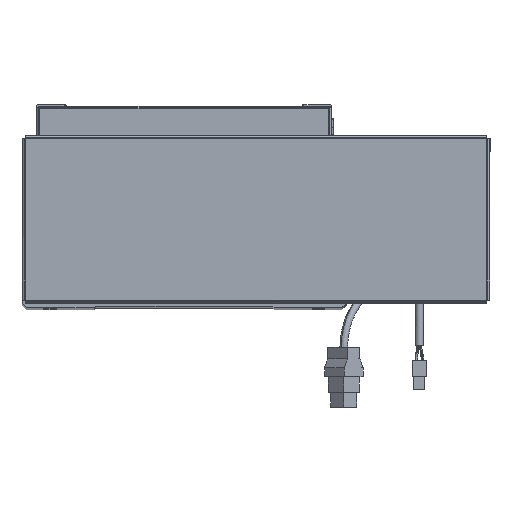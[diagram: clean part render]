
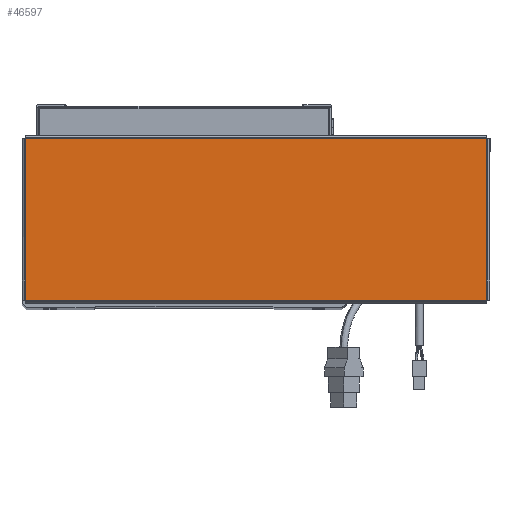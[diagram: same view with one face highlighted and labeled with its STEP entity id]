
A CAD part, top view. The second image highlights one B-rep face of the part: STEP entity #46597.
In plain terms, the highlighted planar face has unit normal (0, 0, 1).
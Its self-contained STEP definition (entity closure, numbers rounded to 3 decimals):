
#1700 = CARTESIAN_POINT ( 'NONE',  ( -156.513, 54.793, 0. ) ) ;
#2698 = CARTESIAN_POINT ( 'NONE',  ( 0., 0., 0. ) ) ;
#4778 = LINE ( 'NONE', #51108, #7146 ) ;
#5701 = LINE ( 'NONE', #24946, #30196 ) ;
#7146 = VECTOR ( 'NONE', #15800, 1000. ) ;
#7666 = VERTEX_POINT ( 'NONE', #33476 ) ;
#8119 = EDGE_CURVE ( 'NONE', #21321, #44547, #48171, .T. ) ;
#10843 = VERTEX_POINT ( 'NONE', #24805 ) ;
#11105 = FACE_OUTER_BOUND ( 'NONE', #17770, .T. ) ;
#15269 = EDGE_CURVE ( 'NONE', #7666, #21321, #5701, .T. ) ;
#15800 = DIRECTION ( 'NONE',  ( 1., 0., 0. ) ) ;
#17770 = EDGE_LOOP ( 'NONE', ( #44904, #53473, #21652, #56318 ) ) ;
#20273 = DIRECTION ( 'NONE',  ( -1., 0., 0. ) ) ;
#21057 = VECTOR ( 'NONE', #29913, 1000. ) ;
#21321 = VERTEX_POINT ( 'NONE', #27334 ) ;
#21652 = ORIENTED_EDGE ( 'NONE', *, *, #15269, .T. ) ;
#24805 = CARTESIAN_POINT ( 'NONE',  ( 156.513, -54.763, 0. ) ) ;
#24946 = CARTESIAN_POINT ( 'NONE',  ( 156.543, 54.763, 0. ) ) ;
#27334 = CARTESIAN_POINT ( 'NONE',  ( -156.513, 54.763, 0. ) ) ;
#27411 = LINE ( 'NONE', #65360, #21057 ) ;
#29913 = DIRECTION ( 'NONE',  ( 0., 1., 0. ) ) ;
#30196 = VECTOR ( 'NONE', #20273, 1000. ) ;
#33476 = CARTESIAN_POINT ( 'NONE',  ( 156.513, 54.763, 0. ) ) ;
#36604 = AXIS2_PLACEMENT_3D ( 'NONE', #2698, #42779, #43008 ) ;
#36753 = DIRECTION ( 'NONE',  ( 0., -1., 0. ) ) ;
#37538 = PLANE ( 'NONE',  #36604 ) ;
#40082 = CARTESIAN_POINT ( 'NONE',  ( -156.513, -54.763, 0. ) ) ;
#42779 = DIRECTION ( 'NONE',  ( 0., 0., 1. ) ) ;
#43008 = DIRECTION ( 'NONE',  ( 1., 0., 0. ) ) ;
#44547 = VERTEX_POINT ( 'NONE', #40082 ) ;
#44904 = ORIENTED_EDGE ( 'NONE', *, *, #55839, .T. ) ;
#46589 = VECTOR ( 'NONE', #36753, 1000. ) ;
#46597 = ADVANCED_FACE ( 'NONE', ( #11105 ), #37538, .T. ) ;
#48171 = LINE ( 'NONE', #1700, #46589 ) ;
#51108 = CARTESIAN_POINT ( 'NONE',  ( -156.543, -54.763, 0. ) ) ;
#51446 = EDGE_CURVE ( 'NONE', #10843, #7666, #27411, .T. ) ;
#53473 = ORIENTED_EDGE ( 'NONE', *, *, #51446, .T. ) ;
#55839 = EDGE_CURVE ( 'NONE', #44547, #10843, #4778, .T. ) ;
#56318 = ORIENTED_EDGE ( 'NONE', *, *, #8119, .T. ) ;
#65360 = CARTESIAN_POINT ( 'NONE',  ( 156.513, -54.793, 0. ) ) ;
